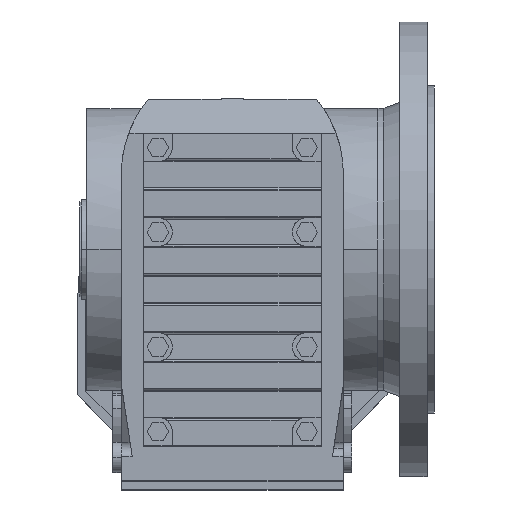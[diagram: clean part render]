
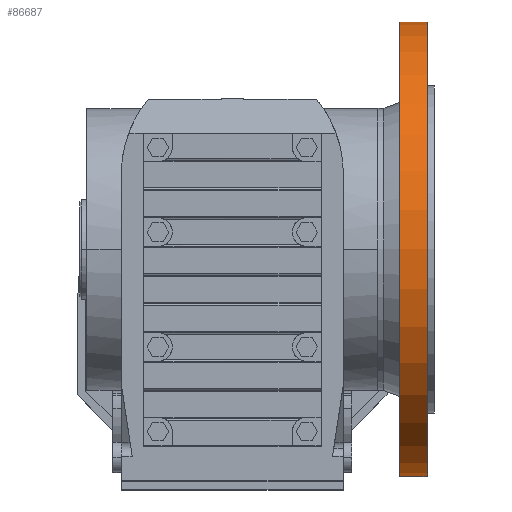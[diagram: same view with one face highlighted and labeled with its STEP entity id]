
A CAD part, top view. The second image highlights one B-rep face of the part: STEP entity #86687.
In plain terms, the highlighted cylindrical face has radius 125 mm (diameter 250 mm), a partial arc.
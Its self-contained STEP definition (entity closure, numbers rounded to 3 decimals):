
#85550 = PLANE('',#85551);
#85551 = AXIS2_PLACEMENT_3D('',#85552,#85553,#85554);
#85552 = CARTESIAN_POINT('',(107.,125.,0.));
#85553 = DIRECTION('',(-1.,0.,0.));
#85554 = DIRECTION('',(0.,-1.,0.));
#85624 = PLANE('',#85625);
#85625 = AXIS2_PLACEMENT_3D('',#85626,#85627,#85628);
#85626 = CARTESIAN_POINT('',(92.,80.776,0.));
#85627 = DIRECTION('',(1.,0.,0.));
#85628 = DIRECTION('',(0.,1.,0.));
#86026 = EDGE_CURVE('',#86027,#86029,#86031,.T.);
#86027 = VERTEX_POINT('',#86028);
#86028 = CARTESIAN_POINT('',(107.,-125.,0.));
#86029 = VERTEX_POINT('',#86030);
#86030 = CARTESIAN_POINT('',(107.,125.,0.));
#86031 = SURFACE_CURVE('',#86032,(#86037,#86044),.PCURVE_S1.);
#86032 = CIRCLE('',#86033,125.);
#86033 = AXIS2_PLACEMENT_3D('',#86034,#86035,#86036);
#86034 = CARTESIAN_POINT('',(107.,0.,0.));
#86035 = DIRECTION('',(-1.,0.,0.));
#86036 = DIRECTION('',(0.,-1.,0.));
#86037 = PCURVE('',#85550,#86038);
#86038 = DEFINITIONAL_REPRESENTATION('',(#86039),#86043);
#86039 = CIRCLE('',#86040,125.);
#86040 = AXIS2_PLACEMENT_2D('',#86041,#86042);
#86041 = CARTESIAN_POINT('',(125.,0.));
#86042 = DIRECTION('',(1.,0.));
#86043 = ( GEOMETRIC_REPRESENTATION_CONTEXT(2) 
PARAMETRIC_REPRESENTATION_CONTEXT() REPRESENTATION_CONTEXT('2D SPACE',''
  ) );
#86044 = PCURVE('',#86045,#86050);
#86045 = CYLINDRICAL_SURFACE('',#86046,125.);
#86046 = AXIS2_PLACEMENT_3D('',#86047,#86048,#86049);
#86047 = CARTESIAN_POINT('',(0.,0.,0.));
#86048 = DIRECTION('',(-1.,0.,0.));
#86049 = DIRECTION('',(0.,-1.,0.));
#86050 = DEFINITIONAL_REPRESENTATION('',(#86051),#86054);
#86051 = B_SPLINE_CURVE_WITH_KNOTS('',1,(#86052,#86053),.UNSPECIFIED.,
  .F.,.F.,(2,2),(0.,3.142),.PIECEWISE_BEZIER_KNOTS.);
#86052 = CARTESIAN_POINT('',(0.,-107.));
#86053 = CARTESIAN_POINT('',(3.142,-107.));
#86054 = ( GEOMETRIC_REPRESENTATION_CONTEXT(2) 
PARAMETRIC_REPRESENTATION_CONTEXT() REPRESENTATION_CONTEXT('2D SPACE',''
  ) );
#86071 = CYLINDRICAL_SURFACE('',#86072,125.);
#86072 = AXIS2_PLACEMENT_3D('',#86073,#86074,#86075);
#86073 = CARTESIAN_POINT('',(0.,0.,0.));
#86074 = DIRECTION('',(-1.,0.,0.));
#86075 = DIRECTION('',(0.,-1.,0.));
#86584 = EDGE_CURVE('',#86585,#86587,#86589,.T.);
#86585 = VERTEX_POINT('',#86586);
#86586 = CARTESIAN_POINT('',(92.,-125.,0.));
#86587 = VERTEX_POINT('',#86588);
#86588 = CARTESIAN_POINT('',(92.,125.,0.));
#86589 = SURFACE_CURVE('',#86590,(#86595,#86606),.PCURVE_S1.);
#86590 = CIRCLE('',#86591,125.);
#86591 = AXIS2_PLACEMENT_3D('',#86592,#86593,#86594);
#86592 = CARTESIAN_POINT('',(92.,0.,0.));
#86593 = DIRECTION('',(-1.,0.,0.));
#86594 = DIRECTION('',(0.,-1.,0.));
#86595 = PCURVE('',#85624,#86596);
#86596 = DEFINITIONAL_REPRESENTATION('',(#86597),#86605);
#86597 = ( BOUNDED_CURVE() B_SPLINE_CURVE(2,(#86598,#86599,#86600,#86601
    ,#86602,#86603,#86604),.UNSPECIFIED.,.T.,.F.) 
B_SPLINE_CURVE_WITH_KNOTS((1,2,2,2,2,1),(-2.094,0.,
    2.094,4.189,6.283,8.378),
.UNSPECIFIED.) CURVE() GEOMETRIC_REPRESENTATION_ITEM() 
RATIONAL_B_SPLINE_CURVE((1.,0.5,1.,0.5,1.,0.5,1.)) REPRESENTATION_ITEM(
  '') );
#86598 = CARTESIAN_POINT('',(-205.776,0.));
#86599 = CARTESIAN_POINT('',(-205.776,216.506));
#86600 = CARTESIAN_POINT('',(-18.276,108.253));
#86601 = CARTESIAN_POINT('',(169.224,0.));
#86602 = CARTESIAN_POINT('',(-18.276,-108.253));
#86603 = CARTESIAN_POINT('',(-205.776,-216.506));
#86604 = CARTESIAN_POINT('',(-205.776,0.));
#86605 = ( GEOMETRIC_REPRESENTATION_CONTEXT(2) 
PARAMETRIC_REPRESENTATION_CONTEXT() REPRESENTATION_CONTEXT('2D SPACE',''
  ) );
#86606 = PCURVE('',#86045,#86607);
#86607 = DEFINITIONAL_REPRESENTATION('',(#86608),#86611);
#86608 = B_SPLINE_CURVE_WITH_KNOTS('',1,(#86609,#86610),.UNSPECIFIED.,
  .F.,.F.,(2,2),(0.,3.142),.PIECEWISE_BEZIER_KNOTS.);
#86609 = CARTESIAN_POINT('',(0.,-92.));
#86610 = CARTESIAN_POINT('',(3.142,-92.));
#86611 = ( GEOMETRIC_REPRESENTATION_CONTEXT(2) 
PARAMETRIC_REPRESENTATION_CONTEXT() REPRESENTATION_CONTEXT('2D SPACE',''
  ) );
#86648 = EDGE_CURVE('',#86029,#86587,#86649,.T.);
#86649 = SURFACE_CURVE('',#86650,(#86654,#86660),.PCURVE_S1.);
#86650 = LINE('',#86651,#86652);
#86651 = CARTESIAN_POINT('',(0.,125.,0.
    ));
#86652 = VECTOR('',#86653,1.);
#86653 = DIRECTION('',(-1.,0.,0.));
#86654 = PCURVE('',#86071,#86655);
#86655 = DEFINITIONAL_REPRESENTATION('',(#86656),#86659);
#86656 = B_SPLINE_CURVE_WITH_KNOTS('',1,(#86657,#86658),.UNSPECIFIED.,
  .F.,.F.,(2,2),(-107.,-92.),.PIECEWISE_BEZIER_KNOTS.);
#86657 = CARTESIAN_POINT('',(3.142,-107.));
#86658 = CARTESIAN_POINT('',(3.142,-92.));
#86659 = ( GEOMETRIC_REPRESENTATION_CONTEXT(2) 
PARAMETRIC_REPRESENTATION_CONTEXT() REPRESENTATION_CONTEXT('2D SPACE',''
  ) );
#86660 = PCURVE('',#86045,#86661);
#86661 = DEFINITIONAL_REPRESENTATION('',(#86662),#86665);
#86662 = B_SPLINE_CURVE_WITH_KNOTS('',1,(#86663,#86664),.UNSPECIFIED.,
  .F.,.F.,(2,2),(-107.,-92.),.PIECEWISE_BEZIER_KNOTS.);
#86663 = CARTESIAN_POINT('',(3.142,-107.));
#86664 = CARTESIAN_POINT('',(3.142,-92.));
#86665 = ( GEOMETRIC_REPRESENTATION_CONTEXT(2) 
PARAMETRIC_REPRESENTATION_CONTEXT() REPRESENTATION_CONTEXT('2D SPACE',''
  ) );
#86668 = EDGE_CURVE('',#86027,#86585,#86669,.T.);
#86669 = SURFACE_CURVE('',#86670,(#86674,#86680),.PCURVE_S1.);
#86670 = LINE('',#86671,#86672);
#86671 = CARTESIAN_POINT('',(0.,-125.,0.));
#86672 = VECTOR('',#86673,1.);
#86673 = DIRECTION('',(-1.,0.,0.));
#86674 = PCURVE('',#86071,#86675);
#86675 = DEFINITIONAL_REPRESENTATION('',(#86676),#86679);
#86676 = B_SPLINE_CURVE_WITH_KNOTS('',1,(#86677,#86678),.UNSPECIFIED.,
  .F.,.F.,(2,2),(-107.,-92.),.PIECEWISE_BEZIER_KNOTS.);
#86677 = CARTESIAN_POINT('',(6.283,-107.));
#86678 = CARTESIAN_POINT('',(6.283,-92.));
#86679 = ( GEOMETRIC_REPRESENTATION_CONTEXT(2) 
PARAMETRIC_REPRESENTATION_CONTEXT() REPRESENTATION_CONTEXT('2D SPACE',''
  ) );
#86680 = PCURVE('',#86045,#86681);
#86681 = DEFINITIONAL_REPRESENTATION('',(#86682),#86685);
#86682 = B_SPLINE_CURVE_WITH_KNOTS('',1,(#86683,#86684),.UNSPECIFIED.,
  .F.,.F.,(2,2),(-107.,-92.),.PIECEWISE_BEZIER_KNOTS.);
#86683 = CARTESIAN_POINT('',(0.,-107.));
#86684 = CARTESIAN_POINT('',(0.,-92.));
#86685 = ( GEOMETRIC_REPRESENTATION_CONTEXT(2) 
PARAMETRIC_REPRESENTATION_CONTEXT() REPRESENTATION_CONTEXT('2D SPACE',''
  ) );
#86687 = ADVANCED_FACE('',(#86688),#86045,.T.);
#86688 = FACE_BOUND('',#86689,.T.);
#86689 = EDGE_LOOP('',(#86690,#86691,#86692,#86693));
#86690 = ORIENTED_EDGE('',*,*,#86026,.T.);
#86691 = ORIENTED_EDGE('',*,*,#86648,.T.);
#86692 = ORIENTED_EDGE('',*,*,#86584,.F.);
#86693 = ORIENTED_EDGE('',*,*,#86668,.F.);
